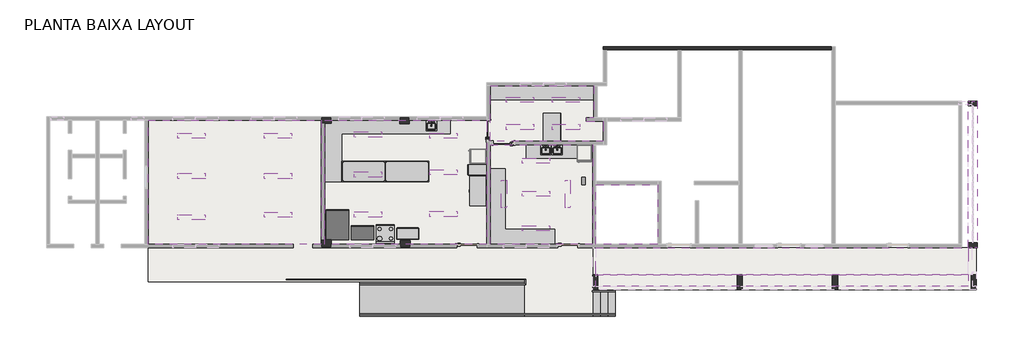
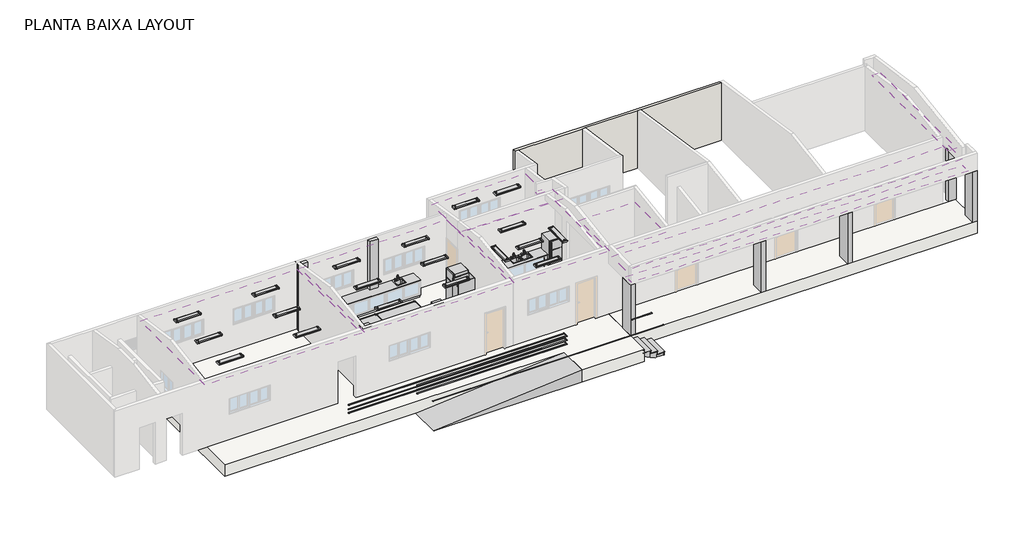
# One storey, part 6 of 6: 24 furniture elements, 21 light fixtures, 18 columns, 6 proxies, 5 coverings, 5 railings, 3 flow terminals, 3 roofs, 5 other elements.
"""IFC4 building model written with IfcOpenShell, lengths in millimetres."""

from ifc_helpers import new_model, si_unit, frame, origin, origin_with_axes, place, context, project, spatial, polyline, outline, extrude, faceted_brep, transform, mapped, element, save
from components import specialty_equipment_45fd0e0a, proxy_130x97_91d28383, proxy_450_x_610_x_860mm_1a0b68a6, proxy_93d6ce39, proxy_80x80cm_0c8ef868, montantes_montantes_c8d9dac7, montantes4_montantes_7e0a6982, montantes5_montantes_dc8b7c8d, montantes7_montantes_873a3f8b, flow_terminal_450_x_450_mm_54b253b9, furniture_05a27e2d, furniture_c9268803, furniture_57f066bc, furniture_564652e5, furniture_a68872e7, furniture_799c2cac, furniture_300_mm_f056cf90, furniture_72x30_bd351fa5, furniture_97x49_b837115c, bancada_g1_bancada_g1_876c18de, bancada_g2_bancada_g1_b57505dd, bancada_g3_bancada_g1_d875864f, bancada_g4_bancada_g1_b31d8305, bancada1_bancada1_bc87f3cf, bancada2_bancada2_bb262f56, bancada4_bancada6_8fe99fff, base_1_3_base_1_3_6f1b118f, base_b2_base_b2_ed49b66d, base_b3_base_b3_a89c63cd, casework_1_casework_1_7aebe958, granito_2_granito_1_fe92f8dd, granito2_granito2_dfa68531, mesa_120x60_0762_x_2134_mm_fea23668, light_fixture_1200_mm_120v_e3a91fee, railing_11618584, railing_a30127fa, railing_f09d9f44, railing_c25ff7d3, railing_9a9ca335, ramp_92b61bd4

model = new_model("IFC4")

# Units and contexts
model_context = context("Model", 3, world=origin())
ifc_project = project(units=[si_unit("LENGTHUNIT", "METRE", prefix="MILLI")], contexts=[model_context])

# Site, building, storey
site = spatial("IfcSite", under=ifc_project)
building = spatial("IfcBuilding", under=site)
storey = spatial("IfcBuildingStorey", under=building, Name="PLANTA BAIXA LAYOUT", Elevation=0.0)

# Proxies
placement = place(None, origin())
specialty_equipment_shape = specialty_equipment_45fd0e0a(model_context)
element("IfcBuildingElementProxy", 1, Name="_Produtos_Arq_Bib_Freezer_-_Upright_404 : _Produtos_Arq_Bib_Freezer_-_Upright_404", ObjectType="_Produtos_Arq_Bib_Freezer_-_Upright_404 : _Produtos_Arq_Bib_Freezer_-_Upright_404", at=placement, inside=storey, context=model_context, shape_type="MappedRepresentation", body=[
    mapped(specialty_equipment_shape, transform((572.6165906, -3647.0637549, 0.0), x_axis=(0.0, -0.9999999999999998, 0.0), y_axis=(0.9999999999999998, 0.0, 0.0), z_axis=(0.0, 0.0, 1.0))),
])
element("IfcBuildingElementProxy", 2, Name="_Produtos_Arq_Bib_Freezer_-_Upright_404 : _Produtos_Arq_Bib_Freezer_-_Upright_404", ObjectType="_Produtos_Arq_Bib_Freezer_-_Upright_404 : _Produtos_Arq_Bib_Freezer_-_Upright_404", at=placement, inside=storey, context=model_context, shape_type="MappedRepresentation", body=[
    mapped(specialty_equipment_shape, transform((-3442.3834094, -3822.3085737, 0.0), x_axis=(-0.9999999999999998, 0.0, 0.0), y_axis=(0.0, -0.9999999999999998, 0.0), z_axis=(0.0, 0.0, 1.0))),
])
proxy_130x97_shape = proxy_130x97_91d28383(model_context)
element("IfcBuildingElementProxy", 3, Name="_Produtos_Arq_Bib_M_Trash Compactor : 130X97", ObjectType="_Produtos_Arq_Bib_M_Trash Compactor : 130X97", at=placement, inside=storey, context=model_context, shape_type="MappedRepresentation", body=[
    mapped(proxy_130x97_shape, transform((-9409.9008779, -7212.7141901, 0.0), x_axis=(1.0, 0.0, 0.0), y_axis=(0.0, 1.0, 0.0), z_axis=(0.0, 0.0, 1.0))),
])
proxy_450_x_610_x_860mm_shape = proxy_450_x_610_x_860mm_1a0b68a6(model_context)
element("IfcBuildingElementProxy", 4, Name="_Produtos_Arq_Bib_M_Trash Compactor : 450 x 610 x 860mm", ObjectType="_Produtos_Arq_Bib_M_Trash Compactor : 450 x 610 x 860mm", at=placement, inside=storey, context=model_context, shape_type="MappedRepresentation", body=[
    mapped(proxy_450_x_610_x_860mm_shape, transform((-10504.5008779, -6505.4141901, 0.0), x_axis=(1.0, 0.0, 0.0), y_axis=(0.0, 1.0, 0.0), z_axis=(0.0, 0.0, 1.0))),
])
proxy_shape = proxy_93d6ce39(model_context)
element("IfcBuildingElementProxy", 5, Name="_Produtos_Arq_Bib_Freezer_Chest_395 : 72\" x 28\"", ObjectType="_Produtos_Arq_Bib_Freezer_Chest_395 : 72\" x 28\"", at=placement, inside=storey, context=model_context, shape_type="MappedRepresentation", body=[
    mapped(proxy_shape, transform((-3797.9834094, -5642.3085015, 0.0), x_axis=(0.0, -1.0000000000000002, 0.0), y_axis=(1.0000000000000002, 0.0, 0.0), z_axis=(0.0, 0.0, 1.0))),
])
proxy_80x80cm_shape = proxy_80x80cm_0c8ef868(model_context)
element("IfcBuildingElementProxy", 6, Name="_Produtos_Arq_Bib_M_Extens¦o : 80X80cm", ObjectType="_Produtos_Arq_Bib_M_Extens¦o : 80X80cm", at=placement, inside=storey, context=model_context, shape_type="MappedRepresentation", body=[
    mapped(proxy_80x80cm_shape, transform((-8242.3834094, -7122.0637549, 0.0), x_axis=(1.0, 0.0, 0.0), y_axis=(0.0, 1.0, 0.0), z_axis=(0.0, 0.0, 1.0))),
])

# Columns
montantes_montantes_shape = montantes_montantes_c8d9dac7(model_context)
element("IfcColumn", 7, ObjectType="Montantes : Montantes", at=placement, inside=storey, context=model_context, shape_type="MappedRepresentation", body=[
    mapped(montantes_montantes_shape, transform((1400.0, 0.0, 0.0), x_axis=(1.0, 0.0, 0.0), y_axis=(0.0, 1.0, 0.0), z_axis=(0.0, 0.0, 1.0))),
])
element("IfcColumn", 8, ObjectType="Montantes1 : Montantes", at=placement, inside=storey, context=model_context, shape_type="MappedRepresentation", body=[
    mapped(montantes_montantes_shape, transform((2920.0, 0.0, 0.0), x_axis=(1.0, 0.0, 0.0), y_axis=(0.0, 1.0, 0.0), z_axis=(0.0, 0.0, 1.0))),
])
element("IfcColumn", 9, ObjectType="Montantes2 : Montantes", at=placement, inside=storey, context=model_context, shape_type="MappedRepresentation", body=[
    mapped(montantes_montantes_shape, transform((2705.0, -6375.0, 0.0), x_axis=(1.0, 0.0, 0.0), y_axis=(0.0, 1.0, 0.0), z_axis=(0.0, 0.0, 1.0))),
])
montantes4_montantes_shape = montantes4_montantes_7e0a6982(model_context)
element("IfcColumn", 10, ObjectType="Montantes4 : Montantes", at=placement, inside=storey, context=model_context, shape_type="MappedRepresentation", body=[
    mapped(montantes4_montantes_shape, transform((0.0, 0.0, 0.0), x_axis=(1.0, 0.0, 0.0), y_axis=(0.0, 1.0, 0.0), z_axis=(0.0, 0.0, 1.0))),
])
montantes5_montantes_shape = montantes5_montantes_dc8b7c8d(model_context)
element("IfcColumn", 11, ObjectType="Montantes5 : Montantes", at=placement, inside=storey, context=model_context, shape_type="MappedRepresentation", body=[
    mapped(montantes5_montantes_shape, transform((1205.0, -6375.0, 0.0), x_axis=(1.0, 0.0, 0.0), y_axis=(0.0, 1.0, 0.0), z_axis=(0.0, 0.0, 1.0))),
])
element("IfcColumn", 12, ObjectType="Montantes6 : Montantes", at=placement, inside=storey, context=model_context, shape_type="MappedRepresentation", body=[
    mapped(montantes4_montantes_shape, transform((0.0, 1550.0, 0.0), x_axis=(1.0, 0.0, 0.0), y_axis=(0.0, 1.0, 0.0), z_axis=(0.0, 0.0, 1.0))),
])
montantes7_montantes_shape = montantes7_montantes_873a3f8b(model_context)
element("IfcColumn", 13, ObjectType="Montantes7 : Montantes", at=placement, inside=storey, context=model_context, shape_type="MappedRepresentation", body=[
    mapped(montantes7_montantes_shape, transform((1695.0, -2575.0, 0.0), x_axis=(1.0, 0.0, 0.0), y_axis=(0.0, 1.0, 0.0), z_axis=(0.0, 0.0, 1.0))),
])
element("IfcColumn", 14, ObjectType="Montantes9 : Montantes", at=placement, inside=storey, context=model_context, shape_type="MappedRepresentation", body=[
    mapped(montantes7_montantes_shape, transform((3735.0, -2575.0, 0.0), x_axis=(1.0, 0.0, 0.0), y_axis=(0.0, 1.0, 0.0), z_axis=(0.0, 0.0, 1.0))),
])
element("IfcColumn", 15, ObjectType="Pilar retangular : 20 x 40 cm", at=placement, inside=storey, context=model_context, shape_type="SweptSolid", body=[
    extrude(outline(polyline([(17677.6165906, -7917.0637549), (18077.6165906, -7917.0637549), (18077.6165906, -8117.0637549), (17677.6165906, -8117.0637549), (17677.6165906, -7917.0637549)])), origin_with_axes(), (0.0, 0.0, 1.0), 2600.0),
])
element("IfcColumn", 16, ObjectType="Pilar retangular : 20 x 40 cm", at=placement, inside=storey, context=model_context, shape_type="SweptSolid", body=[
    extrude(outline(polyline([(17677.6165906, -1717.0637549), (18077.6165906, -1717.0637549), (18077.6165906, -1917.0637549), (17677.6165906, -1917.0637549), (17677.6165906, -1717.0637549)])), origin_with_axes(), (0.0, 0.0, 1.0), 2600.0),
])
element("IfcColumn", 17, ObjectType="Pilar retangular : 22 x 65 cm", at=placement, inside=storey, context=model_context, shape_type="SweptSolid", body=[
    extrude(outline(polyline([(1232.6165906, -9317.0637549), (1452.6165906, -9317.0637549), (1452.6165906, -9967.0637549), (1232.6165906, -9967.0637549), (1232.6165906, -9317.0637549)])), origin_with_axes(), (0.0, 0.0, 1.0), 2600.0),
])
element("IfcColumn", 18, ObjectType="Pilar retangular : 22 x 65 cm", at=placement, inside=storey, context=model_context, shape_type="SweptSolid", body=[
    extrude(outline(polyline([(7567.6165906, -9317.0637549), (7787.6165906, -9317.0637549), (7787.6165906, -9967.0637549), (7567.6165906, -9967.0637549), (7567.6165906, -9317.0637549)])), origin_with_axes(), (0.0, 0.0, 1.0), 2600.0),
])
element("IfcColumn", 19, ObjectType="Pilar retangular : 22 x 65 cm", at=placement, inside=storey, context=model_context, shape_type="SweptSolid", body=[
    extrude(outline(polyline([(11737.6165906, -9317.0637549), (11957.6165906, -9317.0637549), (11957.6165906, -9967.0637549), (11737.6165906, -9967.0637549), (11737.6165906, -9317.0637549)])), origin_with_axes(), (0.0, 0.0, 1.0), 2600.0),
])
element("IfcColumn", 20, ObjectType="Pilar retangular : 22 x 65 cm", at=placement, inside=storey, context=model_context, shape_type="SweptSolid", body=[
    extrude(outline(polyline([(17807.6165906, -9317.0637549), (18027.6165906, -9317.0637549), (18027.6165906, -9967.0637549), (17807.6165906, -9967.0637549), (17807.6165906, -9317.0637549)])), origin_with_axes(), (0.0, 0.0, 1.0), 2600.0),
])
element("IfcColumn", 21, ObjectType="Pilar retangular : 28 x 31 cm", at=placement, inside=storey, context=model_context, shape_type="Brep", body=[
    faceted_brep([(-10202.3834094, -2682.0637549, 3379.75), (-10202.3834094, -2537.0637549, 3379.75), (-10202.3834094, -2402.0637549, 3379.75), (-10642.3834094, -2402.0637549, 3379.75), (-10642.3834094, -2537.0637549, 3379.75), (-10642.3834094, -2682.0637549, 3379.75), (-10492.3834094, -2682.0637549, 3379.75), (-10202.3834094, -2682.0637549, 0.0), (-10492.3834094, -2682.0637549, 0.0), (-10642.3834094, -2682.0637549, 0.0), (-10642.3834094, -2537.0637549, 0.0), (-10642.3834094, -2402.0637549, 0.0), (-10202.3834094, -2402.0637549, 0.0), (-10202.3834094, -2537.0637549, 0.0)], [[[0, 1, 2, 3, 4, 5, 6]], [[7, 8, 9, 10, 11, 12, 13]], [[2, 1, 0, 7, 13, 12]], [[3, 2, 12, 11]], [[5, 4, 3, 11, 10, 9]], [[0, 6, 5, 9, 8, 7]]]),
])
element("IfcColumn", 22, ObjectType="Pilar retangular : 28 x 44 cm", at=placement, inside=storey, context=model_context, shape_type="Brep", body=[
    faceted_brep([(-6752.3834094, -8102.0637549, 3379.75), (-6752.3834094, -7967.0637549, 3379.75), (-6752.3834094, -7822.0637549, 3379.75), (-7192.3834094, -7822.0637549, 3379.75), (-7192.3834094, -7967.0637549, 3379.75), (-7192.3834094, -8102.0637549, 3379.75), (-6752.3834094, -8102.0637549, 0.0), (-7192.3834094, -8102.0637549, 0.0), (-7192.3834094, -7967.0637549, 0.0), (-7192.3834094, -7822.0637549, 0.0), (-6752.3834094, -7822.0637549, 0.0), (-6752.3834094, -7967.0637549, 0.0)], [[[0, 1, 2, 3, 4, 5]], [[6, 7, 8, 9, 10, 11]], [[2, 1, 0, 6, 11, 10]], [[3, 2, 10, 9]], [[5, 4, 3, 9, 8, 7]], [[0, 5, 7, 6]]]),
])
element("IfcColumn", 23, ObjectType="Pilar retangular : 30 x 42 cm", at=placement, inside=storey, context=model_context, shape_type="Brep", body=[
    faceted_brep([(-6792.3834094, -2702.0637549, 3379.75), (-6792.3834094, -2537.0637549, 3379.75), (-6792.3834094, -2402.0637549, 3379.75), (-7212.3834094, -2402.0637549, 3379.75), (-7212.3834094, -2537.0637549, 3379.75), (-7212.3834094, -2702.0637549, 3379.75), (-6792.3834094, -2702.0637549, 0.0), (-7212.3834094, -2702.0637549, 0.0), (-7212.3834094, -2537.0637549, 0.0), (-7212.3834094, -2402.0637549, 0.0), (-6792.3834094, -2402.0637549, 0.0), (-6792.3834094, -2537.0637549, 0.0)], [[[0, 1, 2, 3, 4, 5]], [[6, 7, 8, 9, 10, 11]], [[2, 1, 0, 6, 11, 10]], [[3, 2, 10, 9]], [[5, 4, 3, 9, 8, 7]], [[0, 5, 7, 6]]]),
])
element("IfcColumn", 24, ObjectType="Pilar retangular : 32 x 44 cm", at=placement, inside=storey, context=model_context, shape_type="Brep", body=[
    faceted_brep([(-10202.3834094, -8102.0637549, 3379.75), (-10202.3834094, -7967.0637549, 3379.75), (-10202.3834094, -7782.0637549, 3379.75), (-10492.3834094, -7782.0637549, 3379.75), (-10642.3834094, -7782.0637549, 3379.75), (-10642.3834094, -7967.0637549, 3379.75), (-10642.3834094, -8102.0637549, 3379.75), (-10202.3834094, -8102.0637549, 0.0), (-10642.3834094, -8102.0637549, 0.0), (-10642.3834094, -7967.0637549, 0.0), (-10642.3834094, -7782.0637549, 0.0), (-10492.3834094, -7782.0637549, 0.0), (-10202.3834094, -7782.0637549, 0.0), (-10202.3834094, -7967.0637549, 0.0)], [[[0, 1, 2, 3, 4, 5, 6]], [[7, 8, 9, 10, 11, 12, 13]], [[2, 1, 0, 7, 13, 12]], [[4, 3, 2, 12, 11, 10]], [[6, 5, 4, 10, 9, 8]], [[0, 6, 8, 7]]]),
])

# Coverings
element("IfcCovering", 25, ObjectType="Plano", at=placement, inside=storey, context=model_context, shape_type="SweptSolid", body=[
    extrude(outline(polyline([(-3392.3834094, -3542.0637549), (-3392.3834094, -7967.0637549), (-10492.3834094, -7967.0637549), (-10492.3834094, -2537.0637549), (-3392.3834094, -2537.0637549), (-3392.3834094, -3542.0637549)])), frame((0.0, 0.0, 3080.0), z_axis=(0.0, 0.0, 1.0), x_axis=(1.0, 0.0, 0.0)), (0.0, 0.0, 1.0), 35.0),
])
element("IfcCovering", 26, ObjectType="Plano", at=placement, inside=storey, context=model_context, shape_type="SweptSolid", body=[
    extrude(outline(polyline([(1232.6165906, -3617.0637549), (1232.6165906, -7967.0637549), (-3242.3834094, -7967.0637549), (-3242.3834094, -3617.0637549), (1232.6165906, -3617.0637549)]), holes=[polyline([(912.6165906, -5372.0637549), (912.6165906, -5042.0637549), (762.6165906, -5042.0637549), (762.6165906, -5372.0637549), (912.6165906, -5372.0637549)])]), frame((0.0, 0.0, 3080.0), z_axis=(0.0, 0.0, 1.0), x_axis=(1.0, 0.0, 0.0)), (0.0, 0.0, 1.0), 35.0),
])
element("IfcCovering", 27, ObjectType="Plano", at=placement, inside=storey, context=model_context, shape_type="SweptSolid", body=[
    extrude(outline(polyline([(1707.6165906, -2592.0637549), (1707.6165906, -3467.0637549), (-3242.3834094, -3467.0637549), (-3242.3834094, -1042.0637549), (1277.6165906, -1042.0637549), (1277.6165906, -2442.0637549), (957.6165906, -2442.0637549), (957.6165906, -2592.0637549), (1707.6165906, -2592.0637549)])), frame((0.0, 0.0, 2900.0), z_axis=(0.0, 0.0, 1.0), x_axis=(1.0, 0.0, 0.0)), (0.0, 0.0, 1.0), 35.0),
])
element("IfcCovering", 28, ObjectType="Plano", at=placement, inside=storey, context=model_context, shape_type="SweptSolid", body=[
    extrude(outline(polyline([(-18222.3834094, -2537.0637549), (-10642.3834094, -2537.0637549), (-10642.3834094, -7967.0637549), (-18222.3834094, -7967.0637549), (-18222.3834094, -2537.0637549)])), frame((0.0, 0.0, 3080.0), z_axis=(0.0, 0.0, 1.0), x_axis=(1.0, 0.0, 0.0)), (0.0, 0.0, 1.0), 35.0),
])
element("IfcCovering", 29, ObjectType="Plano", at=placement, inside=storey, context=model_context, shape_type="SweptSolid", body=[
    extrude(outline(polyline([(4082.6165906, -5367.0637549), (4082.6165906, -7967.0637549), (1382.6165906, -7967.0637549), (1382.6165906, -5367.0637549), (4082.6165906, -5367.0637549)])), frame((0.0, 0.0, 3080.0), z_axis=(0.0, 0.0, 1.0), x_axis=(1.0, 0.0, 0.0)), (0.0, 0.0, 1.0), 35.0),
])

# Flow terminals
flow_terminal_450_x_450_mm_shape = flow_terminal_450_x_450_mm_54b253b9(model_context)
element("IfcFlowTerminal", 30, ObjectType="_Produtos_Arq_Bib_M_Pia da cozinha-Ilha : 450 x 450 mm", at=placement, inside=storey, context=model_context, shape_type="MappedRepresentation", body=[
    mapped(flow_terminal_450_x_450_mm_shape, transform((-333.7066333, -3841.484156, 7.3), x_axis=(1.0, 0.0, 0.0), y_axis=(0.0, 1.0, 0.0), z_axis=(0.0, 0.0, 1.0))),
])
element("IfcFlowTerminal", 31, ObjectType="_Produtos_Arq_Bib_M_Pia da cozinha-Ilha : 450 x 450 mm", at=placement, inside=storey, context=model_context, shape_type="MappedRepresentation", body=[
    mapped(flow_terminal_450_x_450_mm_shape, transform((-833.7066333, -3841.484156, 7.3), x_axis=(1.0, 0.0, 0.0), y_axis=(0.0, 1.0, 0.0), z_axis=(0.0, 0.0, 1.0))),
])
element("IfcFlowTerminal", 32, ObjectType="_Produtos_Arq_Bib_M_Pia da cozinha-Ilha : 450 x 450 mm", at=placement, inside=storey, context=model_context, shape_type="MappedRepresentation", body=[
    mapped(flow_terminal_450_x_450_mm_shape, transform((-5839.9726499, -2780.109156, -12.7), x_axis=(1.0, 0.0, 0.0), y_axis=(0.0, 1.0, 0.0), z_axis=(0.0, 0.0, 1.0))),
])

# Furniture
furniture_shape = furniture_05a27e2d(model_context)
element("IfcFurniture", 33, ObjectType="Prateleira B1 : Prateleira B1", at=placement, inside=storey, context=model_context, shape_type="MappedRepresentation", body=[
    mapped(furniture_shape, transform((0.0, 0.0, 0.0), x_axis=(1.0, 0.0, 0.0), y_axis=(0.0, 1.0, 0.0), z_axis=(0.0, 0.0, 1.0))),
])
furniture_2_shape = furniture_c9268803(model_context)
element("IfcFurniture", 34, ObjectType="bASE b1 : bASE b1", at=placement, inside=storey, context=model_context, shape_type="MappedRepresentation", body=[
    mapped(furniture_2_shape, transform((0.0, 0.0, 0.0), x_axis=(1.0, 0.0, 0.0), y_axis=(0.0, 1.0, 0.0), z_axis=(0.0, 0.0, 1.0))),
])
furniture_3_shape = furniture_57f066bc(model_context)
element("IfcFurniture", 35, ObjectType="Prateleira B2 : Prateleira B2", at=placement, inside=storey, context=model_context, shape_type="MappedRepresentation", body=[
    mapped(furniture_3_shape, transform((0.0, 0.0, 0.0), x_axis=(1.0, 0.0, 0.0), y_axis=(0.0, 1.0, 0.0), z_axis=(0.0, 0.0, 1.0))),
])
furniture_4_shape = furniture_564652e5(model_context)
element("IfcFurniture", 36, ObjectType="Prateleira B3 : Prateleira B3", at=placement, inside=storey, context=model_context, shape_type="MappedRepresentation", body=[
    mapped(furniture_4_shape, transform((0.0, 0.0, 0.0), x_axis=(1.0, 0.0, 0.0), y_axis=(0.0, 1.0, 0.0), z_axis=(0.0, 0.0, 1.0))),
])
furniture_5_shape = furniture_a68872e7(model_context)
element("IfcFurniture", 37, ObjectType="bASE 1.2 : bASE 1.2", at=placement, inside=storey, context=model_context, shape_type="MappedRepresentation", body=[
    mapped(furniture_5_shape, transform((0.0, 0.0, 0.0), x_axis=(1.0, 0.0, 0.0), y_axis=(0.0, 1.0, 0.0), z_axis=(0.0, 0.0, 1.0))),
])
furniture_6_shape = furniture_799c2cac(model_context)
element("IfcFurniture", 38, ObjectType="Paneleiro Glendo : Detention_Bunk", at=placement, inside=storey, context=model_context, shape_type="MappedRepresentation", body=[
    mapped(furniture_6_shape, transform((-8792.3834094, -4787.0637549, 0.0), x_axis=(1.0, 0.0, 0.0), y_axis=(0.0, 1.0, 0.0), z_axis=(0.0, 0.0, 1.0))),
])
element("IfcFurniture", 39, ObjectType="Paneleiro Glendo : Detention_Bunk", at=placement, inside=storey, context=model_context, shape_type="MappedRepresentation", body=[
    mapped(furniture_6_shape, transform((-6892.3834094, -4787.0637549, 0.0), x_axis=(1.0, 0.0, 0.0), y_axis=(0.0, 1.0, 0.0), z_axis=(0.0, 0.0, 1.0))),
])
furniture_300_mm_shape = furniture_300_mm_f056cf90(model_context)
element("IfcFurniture", 40, ObjectType="_Produtos_Arq_Bib_M_Armário base-Porta simples : 300 mm", at=placement, inside=storey, context=model_context, shape_type="MappedRepresentation", body=[
    mapped(furniture_300_mm_shape, transform((-3412.3834094, -4693.5707966, 0.0), x_axis=(0.0, -1.0, 0.0), y_axis=(1.0, 0.0, 0.0), z_axis=(0.0, 0.0, 1.0))),
])
furniture_72x30_shape = furniture_72x30_bd351fa5(model_context)
element("IfcFurniture", 41, ObjectType="Mesa Glendo 1.20X.75 : 72x30", at=placement, inside=storey, context=model_context, shape_type="MappedRepresentation", body=[
    mapped(furniture_72x30_shape, transform((-542.3834094, -2854.5637549, 0.0), x_axis=(0.0, 1.0, 0.0), y_axis=(-1.0, 0.0, 0.0), z_axis=(0.0, 0.0, 1.0))),
])
furniture_97x49_shape = furniture_97x49_b837115c(model_context)
element("IfcFurniture", 42, ObjectType="_Produtos_Arq_Bib_M_Armário base-Porta simples : 97X49", at=placement, inside=storey, context=model_context, shape_type="MappedRepresentation", body=[
    mapped(furniture_97x49_shape, transform((-6840.6531245, -7757.0637549, 0.0), x_axis=(-1.0, 0.0, 0.0), y_axis=(0.0, -1.0, 0.0), z_axis=(0.0, 0.0, 1.0))),
])
bancada_g1_bancada_g1_shape = bancada_g1_bancada_g1_876c18de(model_context)
element("IfcFurniture", 43, ObjectType="Bancada G1 : Bancada G1", at=placement, inside=storey, context=model_context, shape_type="MappedRepresentation", body=[
    mapped(bancada_g1_bancada_g1_shape, transform((0.0, 0.0, 0.0), x_axis=(1.0, 0.0, 0.0), y_axis=(0.0, 1.0, 0.0), z_axis=(0.0, 0.0, 1.0))),
])
bancada_g2_bancada_g1_shape = bancada_g2_bancada_g1_b57505dd(model_context)
element("IfcFurniture", 44, ObjectType="Bancada G2 : Bancada G1", at=placement, inside=storey, context=model_context, shape_type="MappedRepresentation", body=[
    mapped(bancada_g2_bancada_g1_shape, transform((0.0, 0.0, 0.0), x_axis=(1.0, 0.0, 0.0), y_axis=(0.0, 1.0, 0.0), z_axis=(0.0, 0.0, 1.0))),
])
bancada_g3_bancada_g1_shape = bancada_g3_bancada_g1_d875864f(model_context)
element("IfcFurniture", 45, ObjectType="Bancada G3 : Bancada G1", at=placement, inside=storey, context=model_context, shape_type="MappedRepresentation", body=[
    mapped(bancada_g3_bancada_g1_shape, transform((0.0, 0.0, 0.0), x_axis=(1.0, 0.0, 0.0), y_axis=(0.0, 1.0, 0.0), z_axis=(0.0, 0.0, 1.0))),
])
bancada_g4_bancada_g1_shape = bancada_g4_bancada_g1_b31d8305(model_context)
element("IfcFurniture", 46, ObjectType="Bancada G4 : Bancada G1", at=placement, inside=storey, context=model_context, shape_type="MappedRepresentation", body=[
    mapped(bancada_g4_bancada_g1_shape, transform((0.0, 0.0, -390.0), x_axis=(1.0, 0.0, 0.0), y_axis=(0.0, 1.0, 0.0), z_axis=(0.0, 0.0, 1.0))),
])
bancada1_bancada1_shape = bancada1_bancada1_bc87f3cf(model_context)
element("IfcFurniture", 47, ObjectType="Bancada1 : Bancada1", at=placement, inside=storey, context=model_context, shape_type="MappedRepresentation", body=[
    mapped(bancada1_bancada1_shape, transform((0.0, 0.0, 0.0), x_axis=(1.0, 0.0, 0.0), y_axis=(0.0, 1.0, 0.0), z_axis=(0.0, 0.0, 1.0))),
])
bancada2_bancada2_shape = bancada2_bancada2_bb262f56(model_context)
element("IfcFurniture", 48, ObjectType="Bancada2 : Bancada2", at=placement, inside=storey, context=model_context, shape_type="MappedRepresentation", body=[
    mapped(bancada2_bancada2_shape, transform((0.0, 0.0, 0.0), x_axis=(1.0, 0.0, 0.0), y_axis=(0.0, 1.0, 0.0), z_axis=(0.0, 0.0, 1.0))),
])
bancada4_bancada6_shape = bancada4_bancada6_8fe99fff(model_context)
element("IfcFurniture", 49, ObjectType="Bancada4 : Bancada6", at=placement, inside=storey, context=model_context, shape_type="MappedRepresentation", body=[
    mapped(bancada4_bancada6_shape, transform((0.0, 0.0, 0.0), x_axis=(1.0, 0.0, 0.0), y_axis=(0.0, 1.0, 0.0), z_axis=(0.0, 0.0, 1.0))),
])
base_1_3_base_1_3_shape = base_1_3_base_1_3_6f1b118f(model_context)
element("IfcFurniture", 50, ObjectType="Base 1.3 : Base 1.3", at=placement, inside=storey, context=model_context, shape_type="MappedRepresentation", body=[
    mapped(base_1_3_base_1_3_shape, transform((0.0, 0.0, 0.0), x_axis=(1.0, 0.0, 0.0), y_axis=(0.0, 1.0, 0.0), z_axis=(0.0, 0.0, 1.0))),
])
base_b2_base_b2_shape = base_b2_base_b2_ed49b66d(model_context)
element("IfcFurniture", 51, ObjectType="Base B2 : Base B2", at=placement, inside=storey, context=model_context, shape_type="MappedRepresentation", body=[
    mapped(base_b2_base_b2_shape, transform((0.0, 0.0, 0.0), x_axis=(1.0, 0.0, 0.0), y_axis=(0.0, 1.0, 0.0), z_axis=(0.0, 0.0, 1.0))),
])
base_b3_base_b3_shape = base_b3_base_b3_a89c63cd(model_context)
element("IfcFurniture", 52, ObjectType="Base B3 : Base B3", at=placement, inside=storey, context=model_context, shape_type="MappedRepresentation", body=[
    mapped(base_b3_base_b3_shape, transform((0.0, 0.0, 0.0), x_axis=(1.0, 0.0, 0.0), y_axis=(0.0, 1.0, 0.0), z_axis=(0.0, 0.0, 1.0))),
])
casework_1_casework_1_shape = casework_1_casework_1_7aebe958(model_context)
element("IfcFurniture", 53, ObjectType="Casework 1 : Casework 1", at=placement, inside=storey, context=model_context, shape_type="MappedRepresentation", body=[
    mapped(casework_1_casework_1_shape, transform((0.0, 0.0, 0.0), x_axis=(1.0, 0.0, 0.0), y_axis=(0.0, 1.0, 0.0), z_axis=(0.0, 0.0, 1.0))),
])
granito_2_granito_1_shape = granito_2_granito_1_fe92f8dd(model_context)
element("IfcFurniture", 54, ObjectType="Granito 2 : Granito 1", at=placement, inside=storey, context=model_context, shape_type="MappedRepresentation", body=[
    mapped(granito_2_granito_1_shape, transform((0.0, 0.0, 0.0), x_axis=(1.0, 0.0, 0.0), y_axis=(0.0, 1.0, 0.0), z_axis=(0.0, 0.0, 1.0))),
])
granito2_granito2_shape = granito2_granito2_dfa68531(model_context)
element("IfcFurniture", 55, ObjectType="Granito2 : Granito2", at=placement, inside=storey, context=model_context, shape_type="MappedRepresentation", body=[
    mapped(granito2_granito2_shape, transform((0.0, 0.0, 0.0), x_axis=(1.0, 0.0, 0.0), y_axis=(0.0, 1.0, 0.0), z_axis=(0.0, 0.0, 1.0))),
])
mesa_120x60_0762_x_2134_mm_shape = mesa_120x60_0762_x_2134_mm_fea23668(model_context)
element("IfcFurniture", 56, ObjectType="Mesa 120X60 : 0762 x 2134 mm", at=placement, inside=storey, context=model_context, shape_type="MappedRepresentation", body=[
    mapped(mesa_120x60_0762_x_2134_mm_shape, transform((-568.8605038, -2848.7979882, 0.0), x_axis=(0.0, -1.0, 0.0), y_axis=(1.0, 0.0, 0.0), z_axis=(0.0, 0.0, 1.0))),
])

# Light fixtures
light_fixture_1200_mm_120v_shape = light_fixture_1200_mm_120v_e3a91fee(model_context)
element("IfcLightFixture", 57, ObjectType="_Produtos_Arq_Bib_M_Luminária de forro - Linear - 2 Lâmpadas.GLE : 1200 mm - 120V", at=placement, inside=storey, context=model_context, shape_type="MappedRepresentation", body=[
    mapped(light_fixture_1200_mm_120v_shape, transform((-16322.3834094, -3217.0637549, 641.6), x_axis=(1.0, 0.0, 0.0), y_axis=(0.0, 1.0, 0.0), z_axis=(0.0, 0.0, 1.0))),
])
element("IfcLightFixture", 58, ObjectType="_Produtos_Arq_Bib_M_Luminária de forro - Linear - 2 Lâmpadas.GLE : 1200 mm - 120V", at=placement, inside=storey, context=model_context, shape_type="MappedRepresentation", body=[
    mapped(light_fixture_1200_mm_120v_shape, transform((-12542.3834094, -3217.0637549, 641.6), x_axis=(1.0, 0.0, 0.0), y_axis=(0.0, 1.0, 0.0), z_axis=(0.0, 0.0, 1.0))),
])
element("IfcLightFixture", 59, ObjectType="_Produtos_Arq_Bib_M_Luminária de forro - Linear - 2 Lâmpadas.GLE : 1200 mm - 120V", at=placement, inside=storey, context=model_context, shape_type="MappedRepresentation", body=[
    mapped(light_fixture_1200_mm_120v_shape, transform((-12542.3834094, -6687.0637549, 641.6), x_axis=(1.0, 0.0, 0.0), y_axis=(0.0, 1.0, 0.0), z_axis=(0.0, 0.0, 1.0))),
])
element("IfcLightFixture", 60, ObjectType="_Produtos_Arq_Bib_M_Luminária de forro - Linear - 2 Lâmpadas.GLE : 1200 mm - 120V", at=placement, inside=storey, context=model_context, shape_type="MappedRepresentation", body=[
    mapped(light_fixture_1200_mm_120v_shape, transform((-16322.3834094, -6787.0637549, 641.6), x_axis=(1.0, 0.0, 0.0), y_axis=(0.0, 1.0, 0.0), z_axis=(0.0, 0.0, 1.0))),
])
element("IfcLightFixture", 61, ObjectType="_Produtos_Arq_Bib_M_Luminária de forro - Linear - 2 Lâmpadas.GLE : 1200 mm - 120V", at=placement, inside=storey, context=model_context, shape_type="MappedRepresentation", body=[
    mapped(light_fixture_1200_mm_120v_shape, transform((-16322.3834094, -4987.0637549, 641.6), x_axis=(1.0, 0.0, 0.0), y_axis=(0.0, 1.0, 0.0), z_axis=(0.0, 0.0, 1.0))),
])
element("IfcLightFixture", 62, ObjectType="_Produtos_Arq_Bib_M_Luminária de forro - Linear - 2 Lâmpadas.GLE : 1200 mm - 120V", at=placement, inside=storey, context=model_context, shape_type="MappedRepresentation", body=[
    mapped(light_fixture_1200_mm_120v_shape, transform((-12542.3834094, -4987.0637549, 641.6), x_axis=(1.0, 0.0, 0.0), y_axis=(0.0, 1.0, 0.0), z_axis=(0.0, 0.0, 1.0))),
])
element("IfcLightFixture", 63, ObjectType="_Produtos_Arq_Bib_M_Luminária de forro - Linear - 2 Lâmpadas.GLE : 1200 mm - 120V", at=placement, inside=storey, context=model_context, shape_type="MappedRepresentation", body=[
    mapped(light_fixture_1200_mm_120v_shape, transform((-8592.3834094, -3167.0637549, 641.6), x_axis=(1.0, 0.0, 0.0), y_axis=(0.0, 1.0, 0.0), z_axis=(0.0, 0.0, 1.0))),
])
element("IfcLightFixture", 64, ObjectType="_Produtos_Arq_Bib_M_Luminária de forro - Linear - 2 Lâmpadas.GLE : 1200 mm - 120V", at=placement, inside=storey, context=model_context, shape_type="MappedRepresentation", body=[
    mapped(light_fixture_1200_mm_120v_shape, transform((-8592.3834094, -4917.0637549, 641.6), x_axis=(1.0, 0.0, 0.0), y_axis=(0.0, 1.0, 0.0), z_axis=(0.0, 0.0, 1.0))),
])
element("IfcLightFixture", 65, ObjectType="_Produtos_Arq_Bib_M_Luminária de forro - Linear - 2 Lâmpadas.GLE : 1200 mm - 120V", at=placement, inside=storey, context=model_context, shape_type="MappedRepresentation", body=[
    mapped(light_fixture_1200_mm_120v_shape, transform((-8592.3834094, -6667.0637549, 641.6), x_axis=(1.0, 0.0, 0.0), y_axis=(0.0, 1.0, 0.0), z_axis=(0.0, 0.0, 1.0))),
])
element("IfcLightFixture", 66, ObjectType="_Produtos_Arq_Bib_M_Luminária de forro - Linear - 2 Lâmpadas.GLE : 1200 mm - 120V", at=placement, inside=storey, context=model_context, shape_type="MappedRepresentation", body=[
    mapped(light_fixture_1200_mm_120v_shape, transform((-5292.3834094, -6647.0637549, 641.6), x_axis=(1.0, 0.0, 0.0), y_axis=(0.0, 1.0, 0.0), z_axis=(0.0, 0.0, 1.0))),
])
element("IfcLightFixture", 67, ObjectType="_Produtos_Arq_Bib_M_Luminária de forro - Linear - 2 Lâmpadas.GLE : 1200 mm - 120V", at=placement, inside=storey, context=model_context, shape_type="MappedRepresentation", body=[
    mapped(light_fixture_1200_mm_120v_shape, transform((-5292.3834094, -4817.0637549, 641.6), x_axis=(1.0, 0.0, 0.0), y_axis=(0.0, 1.0, 0.0), z_axis=(0.0, 0.0, 1.0))),
])
element("IfcLightFixture", 68, ObjectType="_Produtos_Arq_Bib_M_Luminária de forro - Linear - 2 Lâmpadas.GLE : 1200 mm - 120V", at=placement, inside=storey, context=model_context, shape_type="MappedRepresentation", body=[
    mapped(light_fixture_1200_mm_120v_shape, transform((-5292.3834094, -3217.0637549, 641.6), x_axis=(1.0, 0.0, 0.0), y_axis=(0.0, 1.0, 0.0), z_axis=(0.0, 0.0, 1.0))),
])
element("IfcLightFixture", 69, ObjectType="_Produtos_Arq_Bib_M_Luminária de forro - Linear - 2 Lâmpadas.GLE : 1200 mm - 120V", at=placement, inside=storey, context=model_context, shape_type="MappedRepresentation", body=[
    mapped(light_fixture_1200_mm_120v_shape, transform((-1942.3834094, -1642.0637549, 461.6), x_axis=(1.0, 0.0, 0.0), y_axis=(0.0, 1.0, 0.0), z_axis=(0.0, 0.0, 1.0))),
])
element("IfcLightFixture", 70, ObjectType="_Produtos_Arq_Bib_M_Luminária de forro - Linear - 2 Lâmpadas.GLE : 1200 mm - 120V", at=placement, inside=storey, context=model_context, shape_type="MappedRepresentation", body=[
    mapped(light_fixture_1200_mm_120v_shape, transform((62.6165906, -1642.0637549, 461.6), x_axis=(1.0, 0.0, 0.0), y_axis=(0.0, 1.0, 0.0), z_axis=(0.0, 0.0, 1.0))),
])
element("IfcLightFixture", 71, ObjectType="_Produtos_Arq_Bib_M_Luminária de forro - Linear - 2 Lâmpadas.GLE : 1200 mm - 120V", at=placement, inside=storey, context=model_context, shape_type="MappedRepresentation", body=[
    mapped(light_fixture_1200_mm_120v_shape, transform((62.6165906, -2837.0637549, 461.6), x_axis=(1.0, 0.0, 0.0), y_axis=(0.0, 1.0, 0.0), z_axis=(0.0, 0.0, 1.0))),
])
element("IfcLightFixture", 72, ObjectType="_Produtos_Arq_Bib_M_Luminária de forro - Linear - 2 Lâmpadas.GLE : 1200 mm - 120V", at=placement, inside=storey, context=model_context, shape_type="MappedRepresentation", body=[
    mapped(light_fixture_1200_mm_120v_shape, transform((-1942.3834094, -2837.0637549, 461.6), x_axis=(1.0, 0.0, 0.0), y_axis=(0.0, 1.0, 0.0), z_axis=(0.0, 0.0, 1.0))),
])
element("IfcLightFixture", 73, ObjectType="_Produtos_Arq_Bib_M_Luminária de forro - Linear - 2 Lâmpadas.GLE : 1200 mm - 120V", at=placement, inside=storey, context=model_context, shape_type="MappedRepresentation", body=[
    mapped(light_fixture_1200_mm_120v_shape, transform((-1242.3834094, -4317.0637549, 641.6), x_axis=(1.0, 0.0, 0.0), y_axis=(0.0, 1.0, 0.0), z_axis=(0.0, 0.0, 1.0))),
])
element("IfcLightFixture", 74, ObjectType="_Produtos_Arq_Bib_M_Luminária de forro - Linear - 2 Lâmpadas.GLE : 1200 mm - 120V", at=placement, inside=storey, context=model_context, shape_type="MappedRepresentation", body=[
    mapped(light_fixture_1200_mm_120v_shape, transform((-1242.3834094, -7267.0637549, 641.6), x_axis=(1.0, 0.0, 0.0), y_axis=(0.0, 1.0, 0.0), z_axis=(0.0, 0.0, 1.0))),
])
element("IfcLightFixture", 75, ObjectType="_Produtos_Arq_Bib_M_Luminária de forro - Linear - 2 Lâmpadas.GLE : 1200 mm - 120V", at=placement, inside=storey, context=model_context, shape_type="MappedRepresentation", body=[
    mapped(light_fixture_1200_mm_120v_shape, transform((-1237.3834094, -5767.0637549, 641.6), x_axis=(1.0, 0.0, 0.0), y_axis=(0.0, 1.0, 0.0), z_axis=(0.0, 0.0, 1.0))),
])
element("IfcLightFixture", 76, ObjectType="_Produtos_Arq_Bib_M_Luminária de forro - Linear - 2 Lâmpadas.GLE : 1200 mm - 120V", at=placement, inside=storey, context=model_context, shape_type="MappedRepresentation", body=[
    mapped(light_fixture_1200_mm_120v_shape, transform((-2642.3834094, -5767.0637549, 641.6), x_axis=(0.0, 1.0, 0.0), y_axis=(-1.0, 0.0, 0.0), z_axis=(0.0, 0.0, 1.0))),
])
element("IfcLightFixture", 77, ObjectType="_Produtos_Arq_Bib_M_Luminária de forro - Linear - 2 Lâmpadas.GLE : 1200 mm - 120V", at=placement, inside=storey, context=model_context, shape_type="MappedRepresentation", body=[
    mapped(light_fixture_1200_mm_120v_shape, transform((142.6165906, -5767.0637549, 641.6), x_axis=(0.0, 1.0, 0.0), y_axis=(-1.0, 0.0, 0.0), z_axis=(0.0, 0.0, 1.0))),
])

# Railings
railing_shape = railing_11618584(model_context)
element("IfcRailing", 78, ObjectType="Corrimão em aço", at=placement, inside=storey, context=model_context, shape_type="MappedRepresentation", body=[
    mapped(railing_shape, transform((0.0, 0.0, 0.0), x_axis=(1.0, 0.0, 0.0), y_axis=(0.0, 1.0, 0.0), z_axis=(0.0, 0.0, 1.0))),
])
railing_2_shape = railing_a30127fa(model_context)
element("IfcRailing", 79, ObjectType="Corrimão em aço", at=placement, inside=storey, context=model_context, shape_type="MappedRepresentation", body=[
    mapped(railing_2_shape, transform((0.0, 0.0, 0.0), x_axis=(1.0, 0.0, 0.0), y_axis=(0.0, 1.0, 0.0), z_axis=(0.0, 0.0, 1.0))),
])
railing_3_shape = railing_f09d9f44(model_context)
element("IfcRailing", 80, ObjectType="Corrimão em aço", at=placement, inside=storey, context=model_context, shape_type="MappedRepresentation", body=[
    mapped(railing_3_shape, transform((0.0, 0.0, 0.0), x_axis=(1.0, 0.0, 0.0), y_axis=(0.0, 1.0, 0.0), z_axis=(0.0, 0.0, 1.0))),
])
railing_4_shape = railing_c25ff7d3(model_context)
element("IfcRailing", 81, ObjectType="Corrimão em aço", at=placement, inside=storey, context=model_context, shape_type="MappedRepresentation", body=[
    mapped(railing_4_shape, transform((0.0, 0.0, 0.0), x_axis=(1.0, 0.0, 0.0), y_axis=(0.0, 1.0, 0.0), z_axis=(0.0, 0.0, 1.0))),
])
railing_5_shape = railing_9a9ca335(model_context)
element("IfcRailing", 82, ObjectType="Corrimão em aço", at=placement, inside=storey, context=model_context, shape_type="MappedRepresentation", body=[
    mapped(railing_5_shape, transform((0.0, 0.0, 0.0), x_axis=(1.0, 0.0, 0.0), y_axis=(0.0, 1.0, 0.0), z_axis=(0.0, 0.0, 1.0))),
])

# Ramp
ramp_shape = ramp_92b61bd4(model_context)
element("IfcRamp", 83, ObjectType="8.33% sólida", at=placement, inside=storey, context=model_context, shape_type="MappedRepresentation", body=[
    mapped(ramp_shape, transform((0.0, 0.0, 0.0), x_axis=(1.0, 0.0, 0.0), y_axis=(0.0, 1.0, 0.0), z_axis=(0.0, 0.0, 1.0))),
])

# Roofs
element("IfcRoof", 84, ObjectType="Laje - 20 cm", at=placement, inside=storey, context=model_context, shape_type="SweptSolid", body=[
    extrude(outline(polyline([(17677.6165906, -9817.0637549), (1382.6165906, -9817.0637549), (1382.6165906, -9317.0637549), (17677.6165906, -9317.0637549), (17677.6165906, -9817.0637549)])), frame((0.0, 0.0, 2600.0), z_axis=(0.0, 0.0, 1.0), x_axis=(1.0, 0.0, 0.0)), (0.0, 0.0, 1.0), 100.0),
])
element("IfcRoof", 85, ObjectType="Laje - 20 cm", at=placement, inside=storey, context=model_context, shape_type="SweptSolid", body=[
    extrude(outline(polyline([(17677.6165906, -9317.0637549), (1382.6165906, -9317.0637549), (1382.6165906, -8117.0637549), (17677.6165906, -8117.0637549), (17677.6165906, -9317.0637549)])), frame((0.0, 0.0, 2900.0), z_axis=(0.0, 0.0, 1.0), x_axis=(1.0, 0.0, 0.0)), (0.0, 0.0, 1.0), 100.0),
])
element("IfcRoof", 86, ObjectType="Laje - 20 cm", at=placement, inside=storey, context=model_context, shape_type="Brep", body=[
    faceted_brep([(17677.6165906, -1717.0637549, 2600.0), (18084.3322774, -1717.0637549, 2600.0), (18084.3322774, -8117.0637549, 2600.0), (17827.6165906, -8117.0637549, 2600.0), (17677.6165906, -8117.0637549, 2600.0), (17677.6165906, -1867.0637549, 2600.0), (18084.3322774, -1717.0637549, 2700.0), (17827.6165906, -1717.0637549, 2700.0), (17677.6165906, -1717.0637549, 2700.0), (17677.6165906, -1867.0637549, 2700.0), (17677.6165906, -8117.0637549, 2700.0), (17827.6165906, -8117.0637549, 2700.0), (18084.3322774, -8117.0637549, 2700.0)], [[[0, 1, 2, 3, 4, 5]], [[6, 7, 8, 9, 10, 11, 12]], [[8, 7, 6, 1, 0]], [[10, 9, 8, 0, 5, 4]], [[12, 11, 10, 4, 3, 2]], [[6, 12, 2, 1]]]),
])

# Slabs
element("IfcSlab", 87, ObjectType="60cm - Concreto de Regularização 2", at=placement, inside=storey, context=model_context, shape_type="SweptSolid", body=[
    extrude(outline(polyline([(1232.6165906, -3467.0637549), (1232.6165906, -11117.0637549), (-1767.3834094, -11117.0637549), (-1767.3834094, -9617.0637549), (-18222.3834094, -9617.0637549), (-18222.3834094, -2387.0637549), (-3392.3834094, -2387.0637549), (-3392.3834094, -892.0637549), (1272.6165906, -892.0637549), (1272.6165906, -2592.0637549), (1707.6165906, -2592.0637549), (1707.6165906, -3467.0637549), (1232.6165906, -3467.0637549)])), frame((0.0, 0.0, -600.0), z_axis=(0.0, 0.0, 1.0), x_axis=(1.0, 0.0, 0.0)), (0.0, 0.0, 1.0), 600.0),
])
element("IfcSlab", 88, ObjectType="60cm - Concreto de Regularização 2", at=placement, inside=storey, context=model_context, shape_type="Brep", body=[
    faceted_brep([(1232.6165906, -9968.9740676, -600.0), (1232.6165906, -8117.0637549, -600.0), (18027.6165906, -8117.0637549, -600.0), (18027.6165906, -9968.9740676, -600.0), (1232.6165906, -9968.9740676, 0.0), (18027.6165906, -9968.9740676, 0.0), (18027.6165906, -9967.0637549, 0.0), (18027.6165906, -9317.0637549, 0.0), (18027.6165906, -8117.0637549, 0.0), (1232.6165906, -8117.0637549, 0.0), (1232.6165906, -9317.0637549, 0.0), (1232.6165906, -9967.0637549, 0.0)], [[[0, 1, 2, 3]], [[4, 5, 6, 7, 8, 9, 10, 11]], [[1, 0, 4, 11, 10, 9]], [[2, 1, 9, 8]], [[3, 2, 8, 7, 6, 5]], [[0, 3, 5, 4]]]),
])

# Stair flight
element("IfcStairFlight", 89, ObjectType="25 mm Tread 25 mm Nosing 25 mm Riser", at=placement, inside=storey, context=model_context, shape_type="SolidModel", body=[
    faceted_brep([(1842.6165906, -11117.0637549, -475.0), (2172.6165906, -11117.0637549, -475.0), (2172.6165906, -9968.9740676, -475.0), (1842.6165906, -9968.9740676, -475.0), (1842.6165906, -11117.0637549, -600.0), (2172.6165906, -11117.0637549, -600.0), (2172.6165906, -9968.9740676, -600.0), (1842.6165906, -9968.9740676, -600.0), (1512.6165906, -11117.0637549, -325.0), (1842.6165906, -11117.0637549, -325.0), (1842.6165906, -9968.9740676, -325.0), (1512.6165906, -9968.9740676, -325.0), (1512.6165906, -11117.0637549, -489.7688087), (1755.1252114, -11117.0637549, -600.0), (1755.1252114, -9968.9740676, -600.0), (1512.6165906, -9968.9740676, -489.7688087), (1182.6165906, -11117.0637549, -175.0), (1512.6165906, -11117.0637549, -175.0), (1512.6165906, -9968.9740676, -175.0), (1182.6165906, -9968.9740676, -175.0), (1182.6165906, -11117.0637549, -339.7688087), (1182.6165906, -9968.9740676, -339.7688087)], [[[0, 1, 2, 3]], [[1, 0, 4, 5]], [[2, 1, 5, 6]], [[3, 2, 6, 7]], [[8, 9, 10, 11]], [[4, 0, 9, 8, 12, 13]], [[0, 3, 10, 9]], [[3, 7, 14, 15, 11, 10]], [[16, 17, 18, 19]], [[17, 16, 20, 12, 8]], [[8, 11, 18, 17]], [[19, 18, 11, 15, 21]], [[16, 19, 21, 20]], [[5, 4, 13, 14, 7, 6]], [[14, 13, 12, 20, 21, 15]]]),
    extrude(outline(polyline([(2172.6165906, -9968.9740676), (2197.6165906, -9968.9740676), (2197.6165906, -11117.0637549), (2172.6165906, -11117.0637549), (2172.6165906, -9968.9740676)])), frame((0.0, 0.0, -600.0), z_axis=(0.0, 0.0, 1.0), x_axis=(1.0, 0.0, 0.0)), (0.0, 0.0, 1.0), 125.0),
    extrude(outline(polyline([(1842.6165906, -11117.0637549), (1842.6165906, -9968.9740676), (2222.6165906, -9968.9740676), (2222.6165906, -11117.0637549), (1842.6165906, -11117.0637549)])), frame((0.0, 0.0, -475.0), z_axis=(0.0, 0.0, 1.0), x_axis=(1.0, 0.0, 0.0)), (0.0, 0.0, 1.0), 25.0),
    extrude(outline(polyline([(1842.6165906, -9968.9740676), (1867.6165906, -9968.9740676), (1867.6165906, -11117.0637549), (1842.6165906, -11117.0637549), (1842.6165906, -9968.9740676)])), frame((0.0, 0.0, -450.0), z_axis=(0.0, 0.0, 1.0), x_axis=(1.0, 0.0, 0.0)), (0.0, 0.0, 1.0), 125.0),
    extrude(outline(polyline([(1512.6165906, -11117.0637549), (1512.6165906, -9968.9740676), (1892.6165906, -9968.9740676), (1892.6165906, -11117.0637549), (1512.6165906, -11117.0637549)])), frame((0.0, 0.0, -325.0), z_axis=(0.0, 0.0, 1.0), x_axis=(1.0, 0.0, 0.0)), (0.0, 0.0, 1.0), 25.0),
    extrude(outline(polyline([(1512.6165906, -9968.9740676), (1537.6165906, -9968.9740676), (1537.6165906, -11117.0637549), (1512.6165906, -11117.0637549), (1512.6165906, -9968.9740676)])), frame((0.0, 0.0, -300.0), z_axis=(0.0, 0.0, 1.0), x_axis=(1.0, 0.0, 0.0)), (0.0, 0.0, 1.0), 125.0),
    extrude(outline(polyline([(1182.6165906, -9968.9740676), (1207.6165906, -9968.9740676), (1207.6165906, -11117.0637549), (1182.6165906, -11117.0637549), (1182.6165906, -9968.9740676)])), frame((0.0, 0.0, -150.0), z_axis=(0.0, 0.0, 1.0), x_axis=(1.0, 0.0, 0.0)), (0.0, 0.0, 1.0), 125.0),
    extrude(outline(polyline([(1182.6165906, -11117.0637549), (1182.6165906, -9968.9740676), (1562.6165906, -9968.9740676), (1562.6165906, -11117.0637549), (1182.6165906, -11117.0637549)])), frame((0.0, 0.0, -175.0), z_axis=(0.0, 0.0, 1.0), x_axis=(1.0, 0.0, 0.0)), (0.0, 0.0, 1.0), 25.0),
])

# Wall
element("IfcWall", 90, ObjectType="15cm- Reboco (ambos)", at=placement, inside=storey, context=model_context, shape_type="Brep", body=[
    faceted_brep([(1707.6165906, 532.9362451, 0.0), (1857.6165906, 532.9362451, 0.0), (4957.6165906, 532.9362451, 0.0), (5107.6165906, 532.9362451, 0.0), (7632.0025128, 532.9362451, 0.0), (7782.0025128, 532.9362451, 0.0), (11707.6165906, 532.9362451, 0.0), (11707.6165906, 532.9362451, 2939.5), (7782.0025128, 532.9362451, 2939.5), (7632.0025128, 532.9362451, 2939.5), (5107.6165906, 532.9362451, 2939.5), (4957.6165906, 532.9362451, 2939.5), (1857.6165906, 532.9362451, 2939.5), (1707.6165906, 532.9362451, 2939.5), (1707.6165906, 682.9362451, 0.0), (1707.6165906, 682.9362451, 2917.0), (11707.6165906, 682.9362451, 2917.0), (11707.6165906, 682.9362451, 0.0)], [[[0, 1, 2, 3, 4, 5, 6, 7, 8, 9, 10, 11, 12, 13]], [[14, 15, 16, 17]], [[6, 5, 4, 3, 2, 1, 0, 14, 17]], [[0, 13, 15, 14]], [[7, 6, 17, 16]], [[13, 12, 11, 10, 9, 8, 7, 16, 15]]]),
])

save(model, "model.ifc")
